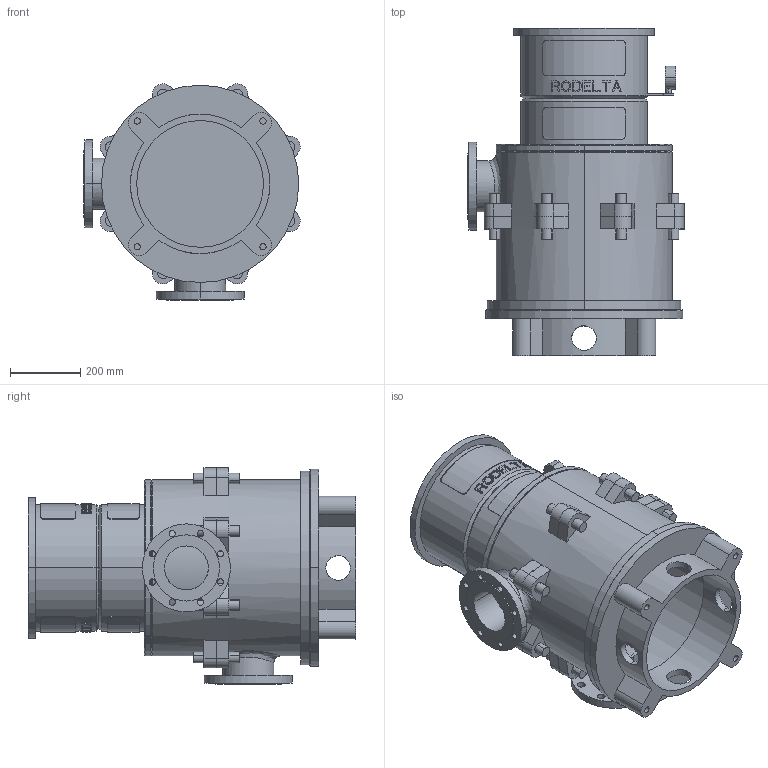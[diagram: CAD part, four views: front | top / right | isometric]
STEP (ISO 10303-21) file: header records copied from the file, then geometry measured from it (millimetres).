
FILE_DESCRIPTION((''),'2;1');
FILE_NAME('LS5_1TR_0GR_TOT_30KW','2023-08-08T',('Lyritlocal'),(''),'PRO/ENGINEER BY PARAMETRIC TECHNOLOGY CORPORATION, 2016360','PRO/ENGINEER BY PARAMETRIC TECHNOLOGY CORPORATION, 2016360','');
FILE_SCHEMA(('CONFIG_CONTROL_DESIGN'));
Length unit declared in the file: millimetre
Products named in the file (1): LS5_1TR_0GR_TOT_30KW
Bounding box: 614.04 x 930 x 614.04 mm (x, y, z)
Volume: 29690198.4 mm3; surface area: 3959001.4 mm2
Topology: 3 solids, 7 shells, 672 faces, 1749 edges, 1158 vertices
Faces by surface type: plane 414, cylinder 242, cone 12, bspline 4
Entity records: 22030 total; most frequent: CARTESIAN_POINT 5578, ORIENTED_EDGE 3482, DIRECTION 3271, EDGE_CURVE 1749, AXIS2_PLACEMENT_3D 1241, VERTEX_POINT 1158, EDGE_LOOP 807, VECTOR 789
